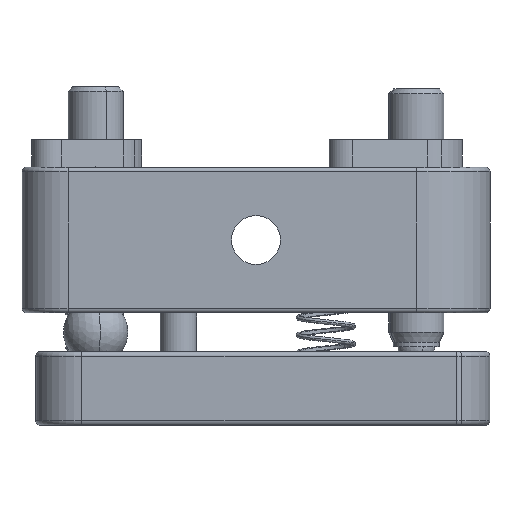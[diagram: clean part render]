
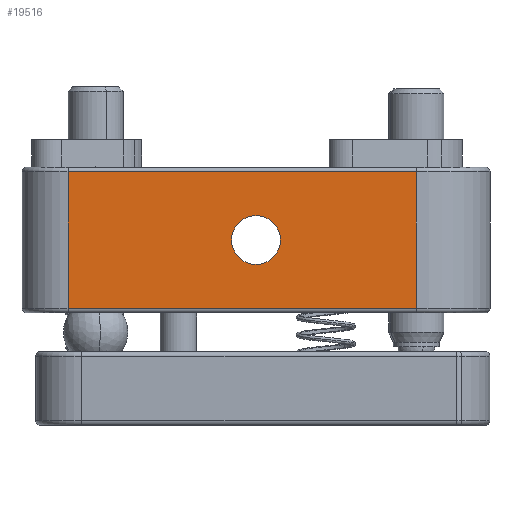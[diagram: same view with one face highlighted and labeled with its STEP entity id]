
A CAD part, front view. The second image highlights one B-rep face of the part: STEP entity #19516.
In plain terms, the highlighted planar face has unit normal (0, -1, 0).
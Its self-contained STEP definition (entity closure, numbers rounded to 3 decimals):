
#70 = PLANE ( 'NONE',  #1074 ) ;
#151 = ORIENTED_EDGE ( 'NONE', *, *, #16962, .F. ) ;
#373 = DIRECTION ( 'NONE',  ( 0., 0., -1. ) ) ;
#627 = VECTOR ( 'NONE', #373, 1000. ) ;
#720 = ORIENTED_EDGE ( 'NONE', *, *, #6114, .F. ) ;
#767 = VERTEX_POINT ( 'NONE', #14481 ) ;
#1074 = AXIS2_PLACEMENT_3D ( 'NONE', #7490, #14886, #22291 ) ;
#1383 = CARTESIAN_POINT ( 'NONE',  ( 36.252, 27.866, -43.489 ) ) ;
#1513 = VERTEX_POINT ( 'NONE', #10516 ) ;
#1999 = LINE ( 'NONE', #9419, #16883 ) ;
#2519 = DIRECTION ( 'NONE',  ( 1., 0., 0. ) ) ;
#3011 = EDGE_CURVE ( 'NONE', #1513, #18098, #18020, .T. ) ;
#3242 = VECTOR ( 'NONE', #14673, 1000. ) ;
#3514 = EDGE_CURVE ( 'NONE', #1513, #7950, #23888, .T. ) ;
#3961 = CARTESIAN_POINT ( 'NONE',  ( 56.652, 27.866, -50.889 ) ) ;
#4616 = ORIENTED_EDGE ( 'NONE', *, *, #3011, .T. ) ;
#6114 = EDGE_CURVE ( 'NONE', #9229, #20809, #18774, .T. ) ;
#7202 = EDGE_LOOP ( 'NONE', ( #720, #151 ) ) ;
#7269 = CARTESIAN_POINT ( 'NONE',  ( 74.052, 27.866, -42.989 ) ) ;
#7490 = CARTESIAN_POINT ( 'NONE',  ( 74.052, 27.866, -42.989 ) ) ;
#7950 = VERTEX_POINT ( 'NONE', #20825 ) ;
#8329 = AXIS2_PLACEMENT_3D ( 'NONE', #3961, #11367, #18760 ) ;
#8803 = DIRECTION ( 'NONE',  ( -1., 0., 0. ) ) ;
#9148 = EDGE_LOOP ( 'NONE', ( #22520, #9538, #22342, #4616 ) ) ;
#9229 = VERTEX_POINT ( 'NONE', #17038 ) ;
#9311 = FACE_BOUND ( 'NONE', #7202, .T. ) ;
#9419 = CARTESIAN_POINT ( 'NONE',  ( 74.052, 27.866, -58.289 ) ) ;
#9538 = ORIENTED_EDGE ( 'NONE', *, *, #15923, .T. ) ;
#9604 = LINE ( 'NONE', #17009, #627 ) ;
#10334 = CIRCLE ( 'NONE', #23891, 2.65 ) ;
#10516 = CARTESIAN_POINT ( 'NONE',  ( 74.052, 27.866, -43.489 ) ) ;
#11367 = DIRECTION ( 'NONE',  ( 0., -1., 0. ) ) ;
#11756 = CARTESIAN_POINT ( 'NONE',  ( 56.652, 27.866, -50.889 ) ) ;
#12490 = VECTOR ( 'NONE', #8803, 1000. ) ;
#14481 = CARTESIAN_POINT ( 'NONE',  ( 36.252, 27.866, -58.289 ) ) ;
#14673 = DIRECTION ( 'NONE',  ( 0., 0., -1. ) ) ;
#14886 = DIRECTION ( 'NONE',  ( 0., 1., 0. ) ) ;
#15923 = EDGE_CURVE ( 'NONE', #767, #7950, #1999, .T. ) ;
#16034 = CARTESIAN_POINT ( 'NONE',  ( 54.002, 27.866, -50.889 ) ) ;
#16712 = FACE_OUTER_BOUND ( 'NONE', #9148, .T. ) ;
#16821 = DIRECTION ( 'NONE',  ( 1., 0., 0. ) ) ;
#16883 = VECTOR ( 'NONE', #16821, 1000. ) ;
#16962 = EDGE_CURVE ( 'NONE', #20809, #9229, #10334, .T. ) ;
#17009 = CARTESIAN_POINT ( 'NONE',  ( 36.252, 27.866, -42.989 ) ) ;
#17038 = CARTESIAN_POINT ( 'NONE',  ( 59.302, 27.866, -50.889 ) ) ;
#17758 = CARTESIAN_POINT ( 'NONE',  ( 36.252, 27.866, -43.489 ) ) ;
#18020 = LINE ( 'NONE', #1383, #12490 ) ;
#18098 = VERTEX_POINT ( 'NONE', #17758 ) ;
#18359 = EDGE_CURVE ( 'NONE', #18098, #767, #9604, .T. ) ;
#18760 = DIRECTION ( 'NONE',  ( 1., 0., 0. ) ) ;
#18774 = CIRCLE ( 'NONE', #8329, 2.65 ) ;
#19159 = DIRECTION ( 'NONE',  ( 0., -1., 0. ) ) ;
#19516 = ADVANCED_FACE ( 'NONE', ( #9311, #16712 ), #70, .F. ) ;
#20809 = VERTEX_POINT ( 'NONE', #16034 ) ;
#20825 = CARTESIAN_POINT ( 'NONE',  ( 74.052, 27.866, -58.289 ) ) ;
#22291 = DIRECTION ( 'NONE',  ( -1., 0., 0. ) ) ;
#22342 = ORIENTED_EDGE ( 'NONE', *, *, #3514, .F. ) ;
#22520 = ORIENTED_EDGE ( 'NONE', *, *, #18359, .T. ) ;
#23888 = LINE ( 'NONE', #7269, #3242 ) ;
#23891 = AXIS2_PLACEMENT_3D ( 'NONE', #11756, #19159, #2519 ) ;
